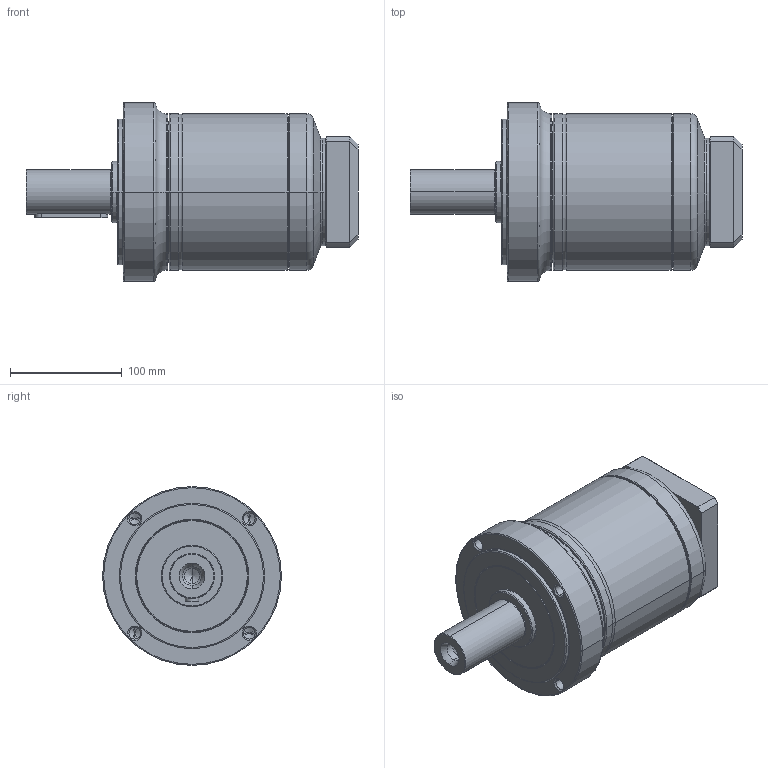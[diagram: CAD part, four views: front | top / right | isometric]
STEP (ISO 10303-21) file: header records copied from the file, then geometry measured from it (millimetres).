
FILE_DESCRIPTION((''),'2;1');
FILE_NAME('PG2-160_2ST_24-P0411500101_ASM','2016-04-13T',('d01943'),(''),'PRO/ENGINEER BY PARAMETRIC TECHNOLOGY CORPORATION, 2008410','PRO/ENGINEER BY PARAMETRIC TECHNOLOGY CORPORATION, 2008410','');
FILE_SCHEMA(('CONFIG_CONTROL_DESIGN'));
Length unit declared in the file: millimetre
Products named in the file (9): P1325510001; P0251500001; P1324500101; P0350501103; P0941501001; P0503500008; P0411500101; P1702500001; PG2-160_2ST_24-P0411500101_ASM
Assembly tree (8 placements, depth 2):
  PG2-160_2ST_24-P0411500101_ASM
    P1325510001
    P0251500001
    P1324500101
    P0350501103
    P0941501001
    P0503500008
    P0411500101
    P1702500001
Bounding box: 297 x 160 x 160 mm (x, y, z)
Volume: 2273004.9 mm3; surface area: 333332.9 mm2
Topology: 8 solids, 9 shells, 489 faces, 1074 edges, 615 vertices
Faces by surface type: cone 146, cylinder 146, torus 102, plane 79, bspline 16
Entity records: 18009 total; most frequent: CARTESIAN_POINT 7029, DIRECTION 2508, ORIENTED_EDGE 2080, AXIS2_PLACEMENT_3D 1076, EDGE_CURVE 1040, VERTEX_POINT 615, CIRCLE 586, EDGE_LOOP 553
